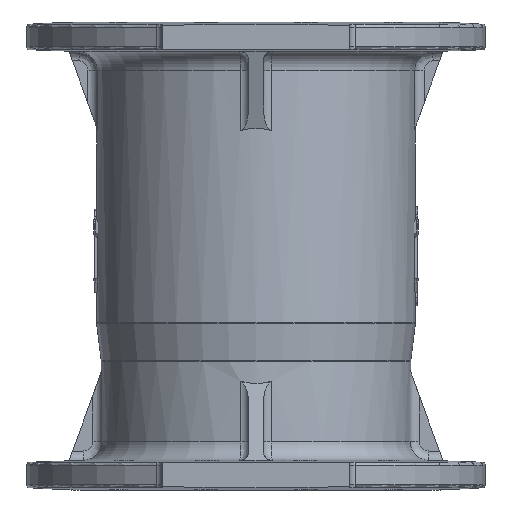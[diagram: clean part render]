
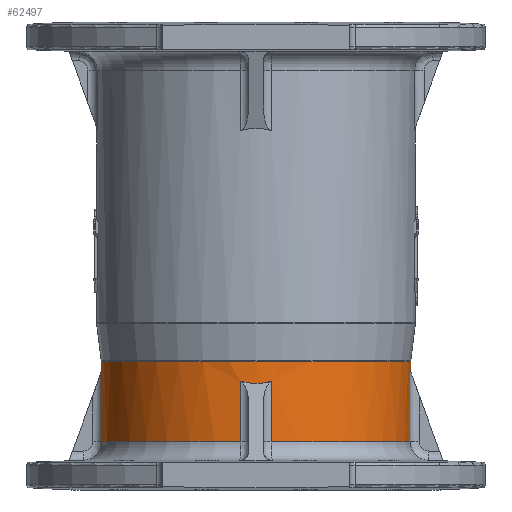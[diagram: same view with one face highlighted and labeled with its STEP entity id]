
A CAD part, front view. The second image highlights one B-rep face of the part: STEP entity #62497.
In plain terms, the highlighted cylindrical face has radius 165 mm (diameter 330 mm), a partial arc.
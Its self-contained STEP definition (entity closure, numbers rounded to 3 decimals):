
#15423 = EDGE_LOOP ( 'NONE', ( #75000, #75001, #75002, #75004, #75003, #75005, #75006, #75007, #75008, #75009, #75010, #75011 ) ) ;
#18870 = EDGE_CURVE ( 'NONE', #66097, #66108, #79648, .T. ) ;
#22657 = LINE ( 'NONE', #24567, #64307 ) ;
#22660 = LINE ( 'NONE', #24619, #64324 ) ;
#22661 = LINE ( 'NONE', #24625, #64328 ) ;
#22662 = LINE ( 'NONE', #24630, #64334 ) ;
#22663 = LINE ( 'NONE', #24636, #64340 ) ;
#22664 = LINE ( 'NONE', #24641, #64346 ) ;
#24567 = CARTESIAN_POINT ( 'NONE',  ( -140., 0., 165. ) ) ;
#24568 = DIRECTION ( 'NONE',  ( 1., 0., 0. ) ) ;
#24619 = CARTESIAN_POINT ( 'NONE',  ( -140., 0., -165. ) ) ;
#24620 = DIRECTION ( 'NONE',  ( 1., 0., 0. ) ) ;
#24621 = CARTESIAN_POINT ( 'NONE',  ( 123.838, 0., -165. ) ) ;
#24622 = CARTESIAN_POINT ( 'NONE',  ( 123.838, -5.512, -165. ) ) ;
#24623 = CARTESIAN_POINT ( 'NONE',  ( 123.08, -11.016, -164.724 ) ) ;
#24624 = CARTESIAN_POINT ( 'NONE',  ( 121.566, -16.5, -164.173 ) ) ;
#24625 = CARTESIAN_POINT ( 'NONE',  ( -140., -16.5, -164.173 ) ) ;
#24626 = DIRECTION ( 'NONE',  ( 1., 0., 0. ) ) ;
#24627 = CARTESIAN_POINT ( 'NONE',  ( 197.91, 0., 0. ) ) ;
#24628 = DIRECTION ( 'NONE',  ( 1., 0., 0. ) ) ;
#24629 = DIRECTION ( 'NONE',  ( 0., 0., -1. ) ) ;
#24630 = CARTESIAN_POINT ( 'NONE',  ( -140., -164.173, -16.5 ) ) ;
#24631 = DIRECTION ( 'NONE',  ( -1., 0., 0. ) ) ;
#24632 = CARTESIAN_POINT ( 'NONE',  ( 133.575, -164.173, 16.5 ) ) ;
#24633 = CARTESIAN_POINT ( 'NONE',  ( 136.607, -165.277, 5.518 ) ) ;
#24634 = CARTESIAN_POINT ( 'NONE',  ( 136.607, -165.277, -5.518 ) ) ;
#24635 = CARTESIAN_POINT ( 'NONE',  ( 133.575, -164.173, -16.5 ) ) ;
#24636 = CARTESIAN_POINT ( 'NONE',  ( -140., -164.173, 16.5 ) ) ;
#24637 = DIRECTION ( 'NONE',  ( -1., 0., 0. ) ) ;
#24638 = CARTESIAN_POINT ( 'NONE',  ( 197.91, 0., 0. ) ) ;
#24639 = DIRECTION ( 'NONE',  ( -1., 0., 0. ) ) ;
#24640 = DIRECTION ( 'NONE',  ( 0., 0., 1. ) ) ;
#24641 = CARTESIAN_POINT ( 'NONE',  ( -140., -16.5, 164.173 ) ) ;
#24642 = DIRECTION ( 'NONE',  ( 1., 0., 0. ) ) ;
#24643 = CARTESIAN_POINT ( 'NONE',  ( 123.838, 0., 165. ) ) ;
#24644 = CARTESIAN_POINT ( 'NONE',  ( 123.838, -5.512, 165. ) ) ;
#24645 = CARTESIAN_POINT ( 'NONE',  ( 123.08, -11.016, 164.724 ) ) ;
#24646 = CARTESIAN_POINT ( 'NONE',  ( 121.566, -16.5, 164.173 ) ) ;
#42503 = VERTEX_POINT ( 'NONE', #47444 ) ;
#42504 = VERTEX_POINT ( 'NONE', #47445 ) ;
#42506 = VERTEX_POINT ( 'NONE', #47450 ) ;
#42510 = VERTEX_POINT ( 'NONE', #47457 ) ;
#47444 = CARTESIAN_POINT ( 'NONE',  ( 123.838, 0., -165. ) ) ;
#47445 = CARTESIAN_POINT ( 'NONE',  ( 121.566, -16.5, -164.173 ) ) ;
#47450 = CARTESIAN_POINT ( 'NONE',  ( 133.575, -164.173, 16.5 ) ) ;
#47457 = CARTESIAN_POINT ( 'NONE',  ( 197.91, -16.5, 164.173 ) ) ;
#48678 = FACE_OUTER_BOUND ( 'NONE', #15423, .T. ) ;
#48679 = CYLINDRICAL_SURFACE ( 'NONE', #79569, 165. ) ;
#56276 =( BOUNDED_CURVE ( )  B_SPLINE_CURVE ( 3, ( #24643, #24644, #24645, #24646 ),
 .UNSPECIFIED., .F., .T. ) 
 B_SPLINE_CURVE_WITH_KNOTS ( ( 4, 4 ),
 ( 0., 0.1 ),
 .UNSPECIFIED. ) 
 CURVE ( )  GEOMETRIC_REPRESENTATION_ITEM ( )  RATIONAL_B_SPLINE_CURVE ( ( 1., 0.999, 0.999, 1. ) ) 
 REPRESENTATION_ITEM ( '' )  );
#56277 =( BOUNDED_CURVE ( )  B_SPLINE_CURVE ( 3, ( #24621, #24622, #24623, #24624 ),
 .UNSPECIFIED., .F., .T. ) 
 B_SPLINE_CURVE_WITH_KNOTS ( ( 4, 4 ),
 ( 0., 0.1 ),
 .UNSPECIFIED. ) 
 CURVE ( )  GEOMETRIC_REPRESENTATION_ITEM ( )  RATIONAL_B_SPLINE_CURVE ( ( 1., 0.999, 0.999, 1. ) ) 
 REPRESENTATION_ITEM ( '' )  );
#56279 =( BOUNDED_CURVE ( )  B_SPLINE_CURVE ( 3, ( #24632, #24633, #24634, #24635 ),
 .UNSPECIFIED., .F., .T. ) 
 B_SPLINE_CURVE_WITH_KNOTS ( ( 4, 4 ),
 ( 6.183, 6.383 ),
 .UNSPECIFIED. ) 
 CURVE ( )  GEOMETRIC_REPRESENTATION_ITEM ( )  RATIONAL_B_SPLINE_CURVE ( ( 1., 0.997, 0.997, 1. ) ) 
 REPRESENTATION_ITEM ( '' )  );
#56712 = CARTESIAN_POINT ( 'NONE',  ( -140., 0., 0. ) ) ;
#56713 = DIRECTION ( 'NONE',  ( 1., 0., 0. ) ) ;
#56714 = DIRECTION ( 'NONE',  ( 0., 0., -1. ) ) ;
#59170 = CARTESIAN_POINT ( 'NONE',  ( 123.838, 0., 165. ) ) ;
#59179 = CARTESIAN_POINT ( 'NONE',  ( 197.91, -16.5, -164.173 ) ) ;
#59184 = CARTESIAN_POINT ( 'NONE',  ( 197.91, -164.173, -16.5 ) ) ;
#59185 = CARTESIAN_POINT ( 'NONE',  ( 133.575, -164.173, -16.5 ) ) ;
#59186 = CARTESIAN_POINT ( 'NONE',  ( 197.91, -164.173, 16.5 ) ) ;
#59187 = CARTESIAN_POINT ( 'NONE',  ( 121.566, -16.5, 164.173 ) ) ;
#59208 = CARTESIAN_POINT ( 'NONE',  ( 112.656, 0., 165. ) ) ;
#59219 = CARTESIAN_POINT ( 'NONE',  ( 112.656, 0., -165. ) ) ;
#60777 = EDGE_CURVE ( 'NONE', #66097, #66059, #22657, .T. ) ;
#60788 = EDGE_CURVE ( 'NONE', #66108, #42503, #22660, .T. ) ;
#60789 = EDGE_CURVE ( 'NONE', #42503, #42504, #56277, .T. ) ;
#60790 = EDGE_CURVE ( 'NONE', #42504, #66068, #22661, .T. ) ;
#60791 = EDGE_CURVE ( 'NONE', #66073, #66068, #64326, .T. ) ;
#60792 = EDGE_CURVE ( 'NONE', #66073, #66074, #22662, .T. ) ;
#60793 = EDGE_CURVE ( 'NONE', #42506, #66074, #56279, .T. ) ;
#60794 = EDGE_CURVE ( 'NONE', #66075, #42506, #22663, .T. ) ;
#60795 = EDGE_CURVE ( 'NONE', #66075, #42510, #64338, .T. ) ;
#60796 = EDGE_CURVE ( 'NONE', #66076, #42510, #22664, .T. ) ;
#60797 = EDGE_CURVE ( 'NONE', #66059, #66076, #56276, .T. ) ;
#62497 = ADVANCED_FACE ( 'NONE', ( #48678 ), #48679, .T. ) ;
#64307 = VECTOR ( 'NONE', #24568, 1000. ) ;
#64324 = VECTOR ( 'NONE', #24620, 1000. ) ;
#64326 = CIRCLE ( 'NONE', #64330, 165. ) ;
#64328 = VECTOR ( 'NONE', #24626, 1000. ) ;
#64330 = AXIS2_PLACEMENT_3D ( 'NONE', #24627, #24628, #24629 ) ;
#64334 = VECTOR ( 'NONE', #24631, 1000. ) ;
#64338 = CIRCLE ( 'NONE', #64342, 165. ) ;
#64340 = VECTOR ( 'NONE', #24637, 1000. ) ;
#64342 = AXIS2_PLACEMENT_3D ( 'NONE', #24638, #24639, #24640 ) ;
#64346 = VECTOR ( 'NONE', #24642, 1000. ) ;
#66059 = VERTEX_POINT ( 'NONE', #59170 ) ;
#66068 = VERTEX_POINT ( 'NONE', #59179 ) ;
#66073 = VERTEX_POINT ( 'NONE', #59184 ) ;
#66074 = VERTEX_POINT ( 'NONE', #59185 ) ;
#66075 = VERTEX_POINT ( 'NONE', #59186 ) ;
#66076 = VERTEX_POINT ( 'NONE', #59187 ) ;
#66097 = VERTEX_POINT ( 'NONE', #59208 ) ;
#66108 = VERTEX_POINT ( 'NONE', #59219 ) ;
#75000 = ORIENTED_EDGE ( 'NONE', *, *, #60777, .F. ) ;
#75001 = ORIENTED_EDGE ( 'NONE', *, *, #18870, .T. ) ;
#75002 = ORIENTED_EDGE ( 'NONE', *, *, #60788, .T. ) ;
#75003 = ORIENTED_EDGE ( 'NONE', *, *, #60790, .T. ) ;
#75004 = ORIENTED_EDGE ( 'NONE', *, *, #60789, .T. ) ;
#75005 = ORIENTED_EDGE ( 'NONE', *, *, #60791, .F. ) ;
#75006 = ORIENTED_EDGE ( 'NONE', *, *, #60792, .T. ) ;
#75007 = ORIENTED_EDGE ( 'NONE', *, *, #60793, .F. ) ;
#75008 = ORIENTED_EDGE ( 'NONE', *, *, #60794, .F. ) ;
#75009 = ORIENTED_EDGE ( 'NONE', *, *, #60795, .T. ) ;
#75010 = ORIENTED_EDGE ( 'NONE', *, *, #60796, .F. ) ;
#75011 = ORIENTED_EDGE ( 'NONE', *, *, #60797, .F. ) ;
#77449 = CARTESIAN_POINT ( 'NONE',  ( 112.656, 0., 0. ) ) ;
#77450 = DIRECTION ( 'NONE',  ( 1., 0., 0. ) ) ;
#77451 = DIRECTION ( 'NONE',  ( 0., 0., -1. ) ) ;
#79569 = AXIS2_PLACEMENT_3D ( 'NONE', #56712, #56713, #56714 ) ;
#79648 = CIRCLE ( 'NONE', #79650, 165. ) ;
#79650 = AXIS2_PLACEMENT_3D ( 'NONE', #77449, #77450, #77451 ) ;
